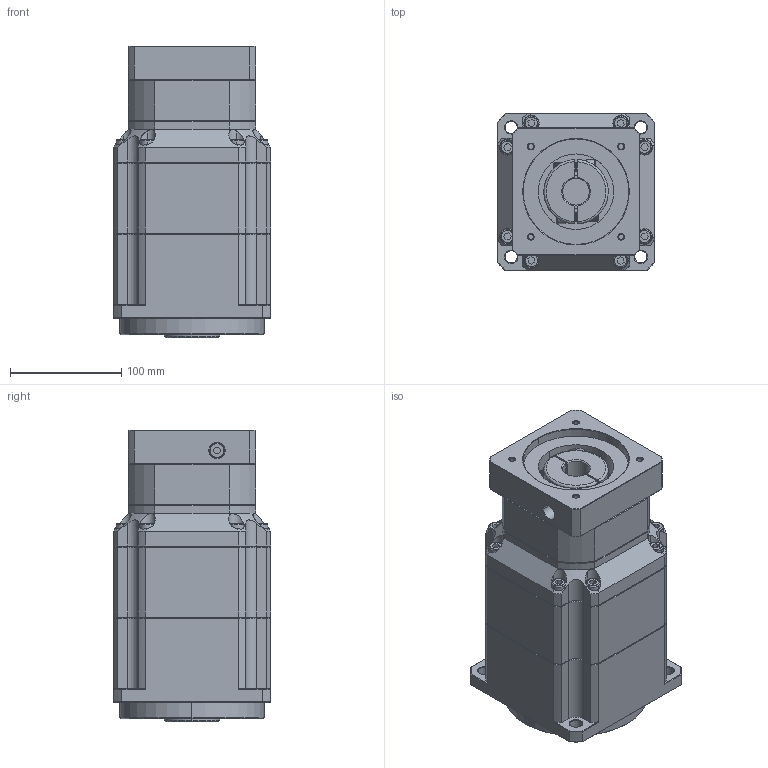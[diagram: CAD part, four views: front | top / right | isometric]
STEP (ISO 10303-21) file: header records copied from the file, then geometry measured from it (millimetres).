
FILE_DESCRIPTION (( 'STEP AP214' ), '1' );
FILE_NAME ('ZPB142-K35-L3-P1-24-95-115-M6.step', '2024-07-05T00:13:47', ( 'Windows 蚚誧' ), ( 'Organization' ), 'SwSTEP 2.0', 'SolidWorks 2016', '' );
FILE_SCHEMA (( 'AUTOMOTIVE_DESIGN' ));
Length unit declared in the file: millimetre
Products named in the file (1): ZPB142-K35-L3-P1-24-95-115-M6
Bounding box: 142 x 142 x 263 mm (x, y, z)
Surface area: 208580.1 mm2 (no closed solid volume)
Topology: 0 solids, 2 shells, 1824 faces, 4860 edges, 3134 vertices
Faces by surface type: plane 1053, bspline 390, cylinder 198, cone 183
Entity records: 90589 total; most frequent: CARTESIAN_POINT 40137, ORIENTED_EDGE 9706, DIRECTION 7239, EDGE_CURVE 4860, LINE 3237, VECTOR 3237, VERTEX_POINT 3134, AXIS2_PLACEMENT_3D 2001
